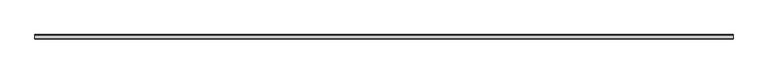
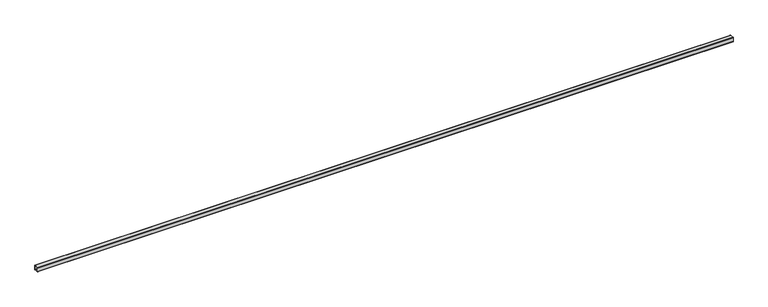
"""IFC4 building model written with IfcOpenShell, lengths in millimetres: beam geometry, Lisse acrot?re 150023 : Lisse acrot?re 150023."""

import ifcopenshell
import ifcopenshell.guid

model = None  # the IFC model being written
_history = None  # IfcOwnerHistory: only IFC2X3 demands one
_inside = {}  # id of a spatial element -> (the spatial element, [elements in it])
_under = {}  # id of a project, library or spatial element -> (it, [spatial elements below it])
_declared = {}  # id of a project -> (the project, [libraries it declares])
_typed = {}  # id of a type object -> (the type object, [elements of that type])
_made_of = {}  # id of a material, layer set ... -> (it, [elements and type objects made of it])


def new_model(schema):
    """Start an empty IFC model of exactly this schema.

    Asked for "IFC4X3", IfcOpenShell would pick the latest addendum, in which some entities
    have other attributes; the version numbers below select the first issue.
    IFC2X3 requires an IfcOwnerHistory on every rooted entity: one is made here for all.
    """
    global model, _history
    if schema == "IFC4X3":
        model = ifcopenshell.file(schema_version=(4, 3, 0, 0))
    else:
        model = ifcopenshell.file(schema=schema)
    _inside.clear()
    _under.clear()
    _declared.clear()
    _typed.clear()
    _made_of.clear()
    _history = None
    if model.schema == "IFC2X3":
        org = make("IfcOrganization", Name="unknown")
        user = make(
            "IfcPersonAndOrganization",
            ThePerson=make("IfcPerson", FamilyName="unknown"),
            TheOrganization=org,
        )
        app = make(
            "IfcApplication",
            ApplicationDeveloper=org,
            Version="unknown",
            ApplicationFullName="unknown",
            ApplicationIdentifier="unknown",
        )
        _history = make(
            "IfcOwnerHistory",
            OwningUser=user,
            OwningApplication=app,
            ChangeAction="ADDED",
            CreationDate=0,
        )
    return model


def make(cls, **values):
    """One entity of the class cls with the attributes given. An attribute that is None is left unset."""
    return model.create_entity(
        cls, **{name: value for name, value in values.items() if value is not None}
    )


def rooted(cls, **values):
    """An entity with a GlobalId (a new one), such as an element, a storey or a relation."""
    return make(cls, GlobalId=ifcopenshell.guid.new(), OwnerHistory=_history, **values)


def si_unit(unit_type, name, prefix=None):
    """IfcSIUnit, for example si_unit("LENGTHUNIT", "METRE", prefix="MILLI")."""
    return make("IfcSIUnit", UnitType=unit_type, Prefix=prefix, Name=name)


def assignment(units):
    """IfcUnitAssignment: the units of a project."""
    return None if units is None else make("IfcUnitAssignment", Units=units)


def point(xyz):
    """IfcCartesianPoint."""
    return None if xyz is None else make("IfcCartesianPoint", Coordinates=xyz)


def direction(xyz):
    """IfcDirection."""
    return None if xyz is None else make("IfcDirection", DirectionRatios=xyz)


def frame(location, z_axis=None, x_axis=None):
    """IfcAxis2Placement3D, a coordinate frame: its origin and axes. An axis left out is left unset."""
    return make(
        "IfcAxis2Placement3D",
        Location=point(location),
        Axis=direction(z_axis),
        RefDirection=direction(x_axis),
    )


def origin():
    """The frame at (0, 0, 0) with its axes left unset."""
    return frame((0.0, 0.0, 0.0))


def place(relative_to, where):
    """IfcLocalPlacement: puts the frame where relative to a parent placement (None: the world)."""
    return make(
        "IfcLocalPlacement", PlacementRelTo=relative_to, RelativePlacement=where
    )


def context(
    kind, dimensions, precision=None, world=None, true_north=None, identifier=None
):
    """IfcGeometricRepresentationContext, for example the 3D "Model" context."""
    return make(
        "IfcGeometricRepresentationContext",
        ContextIdentifier=identifier,
        ContextType=kind,
        CoordinateSpaceDimension=dimensions,
        Precision=precision,
        WorldCoordinateSystem=world,
        TrueNorth=true_north,
    )


def project(units=None, contexts=None):
    """IfcProject with its units and contexts."""
    return rooted(
        "IfcProject",
        Name="project",
        RepresentationContexts=contexts,
        UnitsInContext=assignment(units),
    )


def spatial(cls, under=None, at=None, **own):
    """A site, building, storey or space (cls), placed at a placement, below another one or the project."""
    s = rooted(cls, ObjectPlacement=at, **own)
    if under is not None:
        _under.setdefault(under.id(), (under, []))[1].append(s)
    return s


def polyline(points):
    """IfcPolyline through the points."""
    return make("IfcPolyline", Points=[point(p) for p in points])


def outline(outer, holes=None, kind="AREA"):
    """IfcArbitraryClosedProfileDef: a profile drawn as a closed curve; with holes, ...WithVoids."""
    if holes is None:
        return make("IfcArbitraryClosedProfileDef", ProfileType=kind, OuterCurve=outer)
    return make(
        "IfcArbitraryProfileDefWithVoids",
        ProfileType=kind,
        OuterCurve=outer,
        InnerCurves=holes,
    )


def extrude(swept, where, along, depth):
    """IfcExtrudedAreaSolid: the profile swept, set in the frame where, extruded along a direction by depth."""
    return make(
        "IfcExtrudedAreaSolid",
        SweptArea=swept,
        Position=where,
        ExtrudedDirection=direction(along),
        Depth=depth,
    )


def shape(context_of_items, identifier, shape_type, items):
    """IfcShapeRepresentation: the items that make up one representation, for example the "Body"."""
    return make(
        "IfcShapeRepresentation",
        ContextOfItems=context_of_items,
        RepresentationIdentifier=identifier,
        RepresentationType=shape_type,
        Items=items,
    )


def source(mapping_origin, context_of_items, identifier, shape_type, items):
    """IfcRepresentationMap: a shape defined once, which mapped items show again and again."""
    return make(
        "IfcRepresentationMap",
        MappingOrigin=mapping_origin,
        MappedRepresentation=shape(context_of_items, identifier, shape_type, items),
    )


def transform(
    local_origin,
    x_axis=None,
    y_axis=None,
    z_axis=None,
    scale=None,
    scale2=None,
    scale3=None,
    uniform=True,
):
    """IfcCartesianTransformationOperator3D, or its non-uniform kind. x_axis, y_axis, z_axis: its Axis1, 2, 3."""
    if uniform:
        return make(
            "IfcCartesianTransformationOperator3D",
            Axis1=direction(x_axis),
            Axis2=direction(y_axis),
            LocalOrigin=point(local_origin),
            Scale=scale,
            Axis3=direction(z_axis),
        )
    return make(
        "IfcCartesianTransformationOperator3DnonUniform",
        Axis1=direction(x_axis),
        Axis2=direction(y_axis),
        LocalOrigin=point(local_origin),
        Scale=scale,
        Axis3=direction(z_axis),
        Scale2=scale2,
        Scale3=scale3,
    )


def mapped(mapping_source, mapping_target):
    """IfcMappedItem: shows the shape of a source again, moved by a transform."""
    return make(
        "IfcMappedItem", MappingSource=mapping_source, MappingTarget=mapping_target
    )


def made_of(thing, what):
    """Note that an element or type object is made of a material, layer set ...; save() writes the relation."""
    if what is not None:
        _made_of.setdefault(what.id(), (what, []))[1].append(thing)
    return thing


def element(
    cls,
    number,
    at=None,
    inside=None,
    cuts=None,
    type_object=None,
    material=None,
    context=None,
    identifier="Body",
    shape_type=None,
    held_by="IfcProductDefinitionShape",
    body=None,
    shapes=None,
    **own,
):
    """One element of the class cls, such as IfcWall. Its Tag is "e" and its number.

    at: its placement. inside: the storey or other place that contains it. cuts: it is an
    opening in that element (IfcRelVoidsElement). A single representation is given by context,
    identifier, shape_type and body (its items); several are given by shapes. held_by: the class
    of the entity that holds the representations. save() writes the other relations.
    """
    e = rooted(cls, Tag="e%d" % number, ObjectPlacement=at, **own)
    if body is not None:
        shapes = [shape(context, identifier, shape_type, body)]
    if shapes is not None:
        e.Representation = make(held_by, Representations=shapes)
    if inside is not None:
        _inside.setdefault(inside.id(), (inside, []))[1].append(e)
    if cuts is not None:
        rooted(
            "IfcRelVoidsElement", RelatingBuildingElement=cuts, RelatedOpeningElement=e
        )
    if type_object is not None:
        _typed.setdefault(type_object.id(), (type_object, []))[1].append(e)
    return made_of(e, material)


def aggregate(whole, parts):
    """IfcRelAggregates: a whole, such as a stair, and the parts it consists of."""
    return rooted("IfcRelAggregates", RelatingObject=whole, RelatedObjects=parts)


def save(model, path):
    """Write the relations noted so far, then the file.

    IfcRelAggregates (storeys below a building ...), IfcRelContainedInSpatialStructure (elements
    in a storey), IfcRelDefinesByType, IfcRelAssociatesMaterial and IfcRelDeclares: one each for
    every whole, place, type object, material and project.
    """
    for whole, parts in _under.values():
        aggregate(whole, parts)
    for where, things in _inside.values():
        rooted(
            "IfcRelContainedInSpatialStructure",
            RelatedElements=things,
            RelatingStructure=where,
        )
    for kind, things in _typed.values():
        rooted("IfcRelDefinesByType", RelatedObjects=things, RelatingType=kind)
    for what, things in _made_of.values():
        rooted("IfcRelAssociatesMaterial", RelatedObjects=things, RelatingMaterial=what)
    for by, libraries in _declared.values():
        rooted("IfcRelDeclares", RelatingContext=by, RelatedDefinitions=libraries)
    model.write(path)


def beam_d5a7796e(model_context):
    return source(origin(), model_context, "Body", "SweptSolid", [
        extrude(outline(polyline([(-39800.0, 8456.0), (-39800.8038476, 8453.0), (-39803.0, 8450.8038476), (-39806.0, 8450.0), (-39894.0, 8450.0), (-39897.0, 8450.8038476), (-39899.1961524, 8453.0), (-39900.0, 8456.0), (-39900.0, 8544.0), (-39899.1961524, 8547.0), (-39897.0, 8549.1961524), (-39894.0, 8550.0), (-39806.0, 8550.0), (-39803.0, 8549.1961524), (-39800.8038476, 8547.0), (-39800.0, 8544.0), (-39800.0, 8456.0)]), holes=[polyline([(-39804.0, 8542.0), (-39804.5358984, 8544.0), (-39806.0, 8545.4641016), (-39808.0, 8546.0), (-39892.0, 8546.0), (-39894.0, 8545.4641016), (-39895.4641016, 8544.0), (-39896.0, 8542.0), (-39896.0, 8458.0), (-39895.4641016, 8456.0), (-39894.0, 8454.5358984), (-39892.0, 8454.0), (-39808.0, 8454.0), (-39806.0, 8454.5358984), (-39804.5358984, 8456.0), (-39804.0, 8458.0), (-39804.0, 8542.0)])]), frame((-180.0000001, 0.0, 0.0), z_axis=(1.0, 0.0, 0.0), x_axis=(0.0, 1.0, 0.0)), (0.0, 0.0, 1.0), 15570.0),
    ])


if __name__ == "__main__":
    model = new_model("IFC4")
    model_context = context("Model", 3, world=origin())
    ifc_project = project(units=[si_unit("LENGTHUNIT", "METRE", prefix="MILLI")], contexts=[model_context])
    site = spatial("IfcSite", under=ifc_project)
    building = spatial("IfcBuilding", under=site)
    placement = place(None, origin())
    beam_shape = beam_d5a7796e(model_context)
    element("IfcBeam", 1, ObjectType="Lisse acrot?re 150023 : Lisse acrot?re 150023", at=placement, inside=building, context=model_context, shape_type="MappedRepresentation", body=[
        mapped(beam_shape, transform((0.0, 0.0, 0.0), x_axis=(1.0, 0.0, 0.0), y_axis=(0.0, 1.0, 0.0), z_axis=(0.0, 0.0, 1.0))),
    ])
    save(model, "model.ifc")
